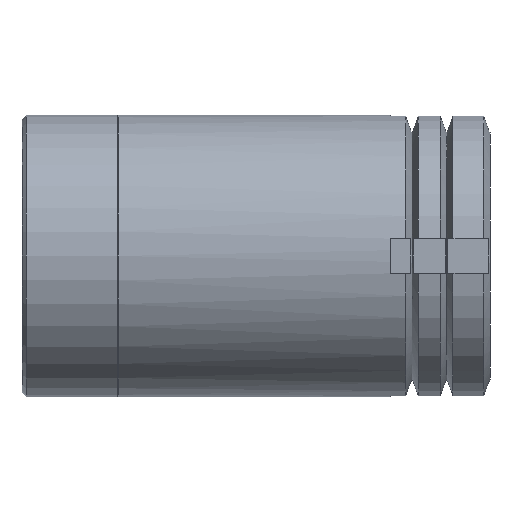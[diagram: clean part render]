
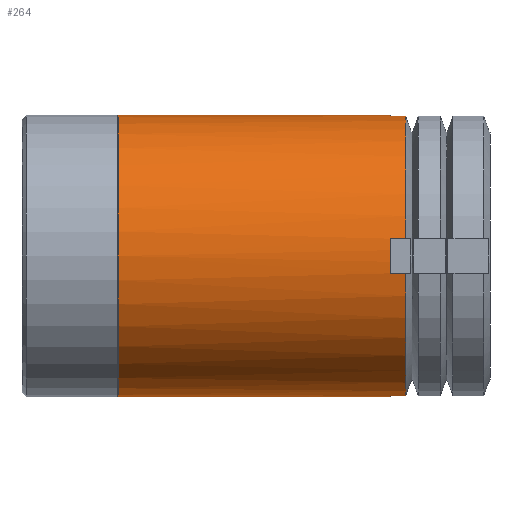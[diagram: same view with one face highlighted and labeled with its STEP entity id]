
A CAD part, front view. The second image highlights one B-rep face of the part: STEP entity #264.
In plain terms, the highlighted cylindrical face has radius 32.5 mm (diameter 65 mm), a full revolution.
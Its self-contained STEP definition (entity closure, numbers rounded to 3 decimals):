
#264 = ADVANCED_FACE( '', ( #402, #403 ), #404, .T. );
#402 = FACE_OUTER_BOUND( '', #640, .T. );
#403 = FACE_OUTER_BOUND( '', #641, .T. );
#404 = CYLINDRICAL_SURFACE( '', #642, 32.5 );
#640 = EDGE_LOOP( '', ( #922 ) );
#641 = EDGE_LOOP( '', ( #923, #924, #925, #926, #927, #928, #929, #930, #931, #932, #933, #934, #935, #936, #937, #938 ) );
#642 = AXIS2_PLACEMENT_3D( '', #939, #940, #941 );
#922 = ORIENTED_EDGE( '', *, *, #1500, .F. );
#923 = ORIENTED_EDGE( '', *, *, #1501, .F. );
#924 = ORIENTED_EDGE( '', *, *, #1502, .T. );
#925 = ORIENTED_EDGE( '', *, *, #1503, .T. );
#926 = ORIENTED_EDGE( '', *, *, #1504, .F. );
#927 = ORIENTED_EDGE( '', *, *, #1505, .F. );
#928 = ORIENTED_EDGE( '', *, *, #1506, .T. );
#929 = ORIENTED_EDGE( '', *, *, #1507, .T. );
#930 = ORIENTED_EDGE( '', *, *, #1508, .F. );
#931 = ORIENTED_EDGE( '', *, *, #1509, .F. );
#932 = ORIENTED_EDGE( '', *, *, #1486, .T. );
#933 = ORIENTED_EDGE( '', *, *, #1510, .T. );
#934 = ORIENTED_EDGE( '', *, *, #1511, .F. );
#935 = ORIENTED_EDGE( '', *, *, #1512, .F. );
#936 = ORIENTED_EDGE( '', *, *, #1513, .T. );
#937 = ORIENTED_EDGE( '', *, *, #1514, .T. );
#938 = ORIENTED_EDGE( '', *, *, #1515, .F. );
#939 = CARTESIAN_POINT( '', ( 0., 9.939, 0. ) );
#940 = DIRECTION( '', ( 0., 1., 0. ) );
#941 = DIRECTION( '', ( 0., 0., -1. ) );
#1486 = EDGE_CURVE( '', #1685, #1683, #1686, .T. );
#1500 = EDGE_CURVE( '', #1712, #1712, #1713, .T. );
#1501 = EDGE_CURVE( '', #1714, #1715, #1716, .T. );
#1502 = EDGE_CURVE( '', #1714, #1717, #1718, .T. );
#1503 = EDGE_CURVE( '', #1717, #1719, #1720, .T. );
#1504 = EDGE_CURVE( '', #1721, #1719, #1722, .T. );
#1505 = EDGE_CURVE( '', #1723, #1721, #1724, .T. );
#1506 = EDGE_CURVE( '', #1723, #1725, #1726, .T. );
#1507 = EDGE_CURVE( '', #1725, #1727, #1728, .T. );
#1508 = EDGE_CURVE( '', #1729, #1727, #1730, .T. );
#1509 = EDGE_CURVE( '', #1685, #1729, #1731, .T. );
#1510 = EDGE_CURVE( '', #1683, #1732, #1733, .T. );
#1511 = EDGE_CURVE( '', #1734, #1732, #1735, .T. );
#1512 = EDGE_CURVE( '', #1736, #1734, #1737, .T. );
#1513 = EDGE_CURVE( '', #1736, #1738, #1739, .T. );
#1514 = EDGE_CURVE( '', #1738, #1740, #1741, .T. );
#1515 = EDGE_CURVE( '', #1715, #1740, #1742, .T. );
#1683 = VERTEX_POINT( '', #2011 );
#1685 = VERTEX_POINT( '', #2019 );
#1686 = LINE( '', #2020, #2021 );
#1712 = VERTEX_POINT( '', #2049 );
#1713 = CIRCLE( '', #2050, 32.5 );
#1714 = VERTEX_POINT( '', #2051 );
#1715 = VERTEX_POINT( '', #2052 );
#1716 = CIRCLE( '', #2053, 32.5 );
#1717 = VERTEX_POINT( '', #2054 );
#1718 = LINE( '', #2055, #2056 );
#1719 = VERTEX_POINT( '', #2057 );
#1720 = CIRCLE( '', #2058, 32.5 );
#1721 = VERTEX_POINT( '', #2059 );
#1722 = LINE( '', #2060, #2061 );
#1723 = VERTEX_POINT( '', #2062 );
#1724 = CIRCLE( '', #2063, 32.5 );
#1725 = VERTEX_POINT( '', #2064 );
#1726 = LINE( '', #2065, #2066 );
#1727 = VERTEX_POINT( '', #2067 );
#1728 = CIRCLE( '', #2068, 32.5 );
#1729 = VERTEX_POINT( '', #2069 );
#1730 = LINE( '', #2070, #2071 );
#1731 = CIRCLE( '', #2072, 32.5 );
#1732 = VERTEX_POINT( '', #2073 );
#1733 = CIRCLE( '', #2074, 32.5 );
#1734 = VERTEX_POINT( '', #2075 );
#1735 = LINE( '', #2076, #2077 );
#1736 = VERTEX_POINT( '', #2078 );
#1737 = CIRCLE( '', #2079, 32.5 );
#1738 = VERTEX_POINT( '', #2080 );
#1739 = LINE( '', #2081, #2082 );
#1740 = VERTEX_POINT( '', #2083 );
#1741 = CIRCLE( '', #2084, 32.5 );
#1742 = LINE( '', #2085, #2086 );
#2011 = CARTESIAN_POINT( '', ( -32.253, 88.54, -4. ) );
#2019 = CARTESIAN_POINT( '', ( -32.253, 85., -4. ) );
#2020 = CARTESIAN_POINT( '', ( -32.253, 85., -4. ) );
#2021 = VECTOR( '', #2747, 1000. );
#2049 = CARTESIAN_POINT( '', ( 0., 22.213, -32.5 ) );
#2050 = AXIS2_PLACEMENT_3D( '', #2783, #2784, #2785 );
#2051 = CARTESIAN_POINT( '', ( 32.253, 85., 4. ) );
#2052 = CARTESIAN_POINT( '', ( 32.253, 85., -4. ) );
#2053 = AXIS2_PLACEMENT_3D( '', #2786, #2787, #2788 );
#2054 = CARTESIAN_POINT( '', ( 32.253, 88.54, 4. ) );
#2055 = CARTESIAN_POINT( '', ( 32.253, 85., 4. ) );
#2056 = VECTOR( '', #2789, 1000. );
#2057 = CARTESIAN_POINT( '', ( 4., 88.54, 32.253 ) );
#2058 = AXIS2_PLACEMENT_3D( '', #2790, #2791, #2792 );
#2059 = CARTESIAN_POINT( '', ( 4., 85., 32.253 ) );
#2060 = CARTESIAN_POINT( '', ( 4., 85., 32.253 ) );
#2061 = VECTOR( '', #2793, 1000. );
#2062 = CARTESIAN_POINT( '', ( -4., 85., 32.253 ) );
#2063 = AXIS2_PLACEMENT_3D( '', #2794, #2795, #2796 );
#2064 = CARTESIAN_POINT( '', ( -4., 88.54, 32.253 ) );
#2065 = CARTESIAN_POINT( '', ( -4., 85., 32.253 ) );
#2066 = VECTOR( '', #2797, 1000. );
#2067 = CARTESIAN_POINT( '', ( -32.253, 88.54, 4. ) );
#2068 = AXIS2_PLACEMENT_3D( '', #2798, #2799, #2800 );
#2069 = CARTESIAN_POINT( '', ( -32.253, 85., 4. ) );
#2070 = CARTESIAN_POINT( '', ( -32.253, 85., 4. ) );
#2071 = VECTOR( '', #2801, 1000. );
#2072 = AXIS2_PLACEMENT_3D( '', #2802, #2803, #2804 );
#2073 = CARTESIAN_POINT( '', ( -4., 88.54, -32.253 ) );
#2074 = AXIS2_PLACEMENT_3D( '', #2805, #2806, #2807 );
#2075 = CARTESIAN_POINT( '', ( -4., 85., -32.253 ) );
#2076 = CARTESIAN_POINT( '', ( -4., 85., -32.253 ) );
#2077 = VECTOR( '', #2808, 1000. );
#2078 = CARTESIAN_POINT( '', ( 4., 85., -32.253 ) );
#2079 = AXIS2_PLACEMENT_3D( '', #2809, #2810, #2811 );
#2080 = CARTESIAN_POINT( '', ( 4., 88.54, -32.253 ) );
#2081 = CARTESIAN_POINT( '', ( 4., 85., -32.253 ) );
#2082 = VECTOR( '', #2812, 1000. );
#2083 = CARTESIAN_POINT( '', ( 32.253, 88.54, -4. ) );
#2084 = AXIS2_PLACEMENT_3D( '', #2813, #2814, #2815 );
#2085 = CARTESIAN_POINT( '', ( 32.253, 85., -4. ) );
#2086 = VECTOR( '', #2816, 1000. );
#2747 = DIRECTION( '', ( 0., 1., 0. ) );
#2783 = CARTESIAN_POINT( '', ( 0., 22.213, 0. ) );
#2784 = DIRECTION( '', ( 0., -1., 0. ) );
#2785 = DIRECTION( '', ( 0., 0., -1. ) );
#2786 = CARTESIAN_POINT( '', ( 0., 85., 0. ) );
#2787 = DIRECTION( '', ( 0., 1., 0. ) );
#2788 = DIRECTION( '', ( 0., 0., 1. ) );
#2789 = DIRECTION( '', ( 0., 1., 0. ) );
#2790 = CARTESIAN_POINT( '', ( 0., 88.54, 0. ) );
#2791 = DIRECTION( '', ( 0., -1., 0. ) );
#2792 = DIRECTION( '', ( 0., 0., -1. ) );
#2793 = DIRECTION( '', ( 0., 1., 0. ) );
#2794 = CARTESIAN_POINT( '', ( 0., 85., 0. ) );
#2795 = DIRECTION( '', ( 0., 1., 0. ) );
#2796 = DIRECTION( '', ( 0., 0., 1. ) );
#2797 = DIRECTION( '', ( 0., 1., 0. ) );
#2798 = CARTESIAN_POINT( '', ( 0., 88.54, 0. ) );
#2799 = DIRECTION( '', ( 0., -1., 0. ) );
#2800 = DIRECTION( '', ( 0., 0., -1. ) );
#2801 = DIRECTION( '', ( 0., 1., 0. ) );
#2802 = CARTESIAN_POINT( '', ( 0., 85., 0. ) );
#2803 = DIRECTION( '', ( 0., 1., 0. ) );
#2804 = DIRECTION( '', ( 0., 0., 1. ) );
#2805 = CARTESIAN_POINT( '', ( 0., 88.54, 0. ) );
#2806 = DIRECTION( '', ( 0., -1., 0. ) );
#2807 = DIRECTION( '', ( 0., 0., -1. ) );
#2808 = DIRECTION( '', ( 0., 1., 0. ) );
#2809 = CARTESIAN_POINT( '', ( 0., 85., 0. ) );
#2810 = DIRECTION( '', ( 0., 1., 0. ) );
#2811 = DIRECTION( '', ( 0., 0., 1. ) );
#2812 = DIRECTION( '', ( 0., 1., 0. ) );
#2813 = CARTESIAN_POINT( '', ( 0., 88.54, 0. ) );
#2814 = DIRECTION( '', ( 0., -1., 0. ) );
#2815 = DIRECTION( '', ( 0., 0., -1. ) );
#2816 = DIRECTION( '', ( 0., 1., 0. ) );
